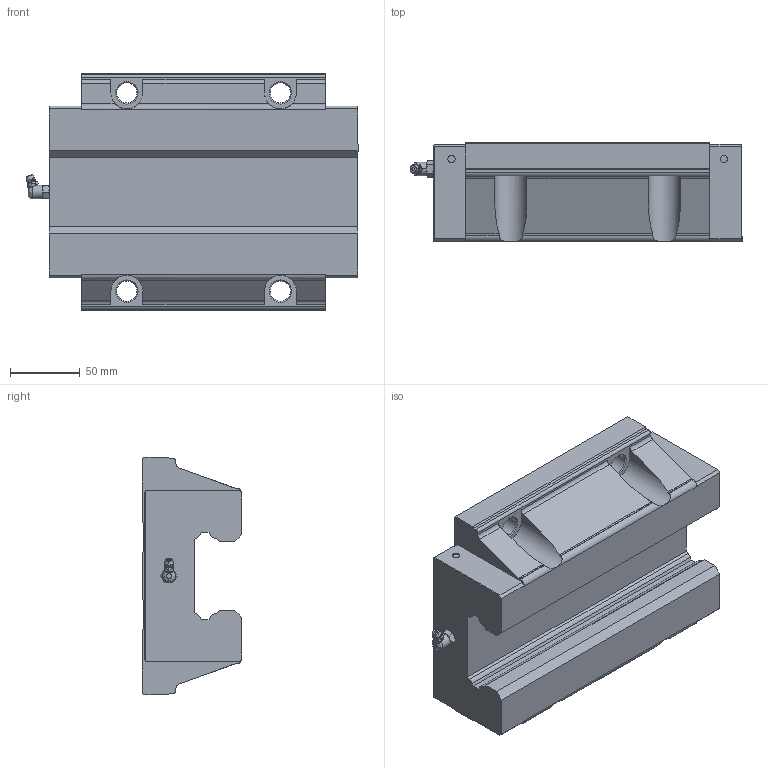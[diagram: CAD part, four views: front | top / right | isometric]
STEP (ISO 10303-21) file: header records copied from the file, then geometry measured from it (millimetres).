
FILE_DESCRIPTION (( 'STEP AP203' ), '1' );
FILE_NAME ('SHS65C.step', '2017-09-18T07:14:38', ( '' ), ( '' ), 'SwSTEP 2.0', 'SolidWorks 2017', '' );
FILE_SCHEMA (( 'CONFIG_CONTROL_DESIGN' ));
Length unit declared in the file: millimetre
Products named in the file (1): SHS65C
Bounding box: 237.7 x 71 x 170 mm (x, y, z)
Volume: 1791008.1 mm3; surface area: 138545.5 mm2
Topology: 2 solids, 2 shells, 200 faces, 532 edges, 338 vertices
Faces by surface type: plane 105, cylinder 46, cone 40, bspline 9
Entity records: 6753 total; most frequent: CARTESIAN_POINT 1774, ORIENTED_EDGE 1050, DIRECTION 990, EDGE_CURVE 525, VERTEX_POINT 338, AXIS2_PLACEMENT_3D 334, VECTOR 322, LINE 322
